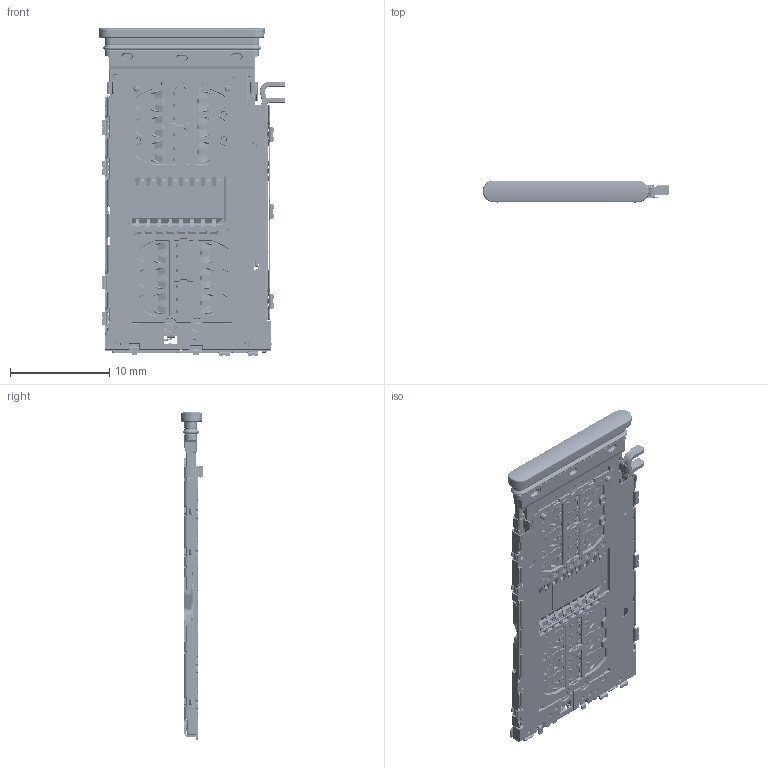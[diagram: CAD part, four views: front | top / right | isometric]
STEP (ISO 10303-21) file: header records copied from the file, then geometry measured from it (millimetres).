
FILE_DESCRIPTION((''),'2;1');
FILE_NAME('1052001BR001_NANO_SIM2_TF_CARD__ASM','2023-07-24T10:06:36',('MACHENIKE'),(''),'CREO PARAMETRIC BY PTC INC, 2020053','CREO PARAMETRIC BY PTC INC, 2020053','');
FILE_SCHEMA(('CONFIG_CONTROL_DESIGN'));
Length unit declared in the file: millimetre
Products named in the file (54): MANIFOLD_SOLID_BREP_45726_1_1_3; MANIFOLD_SOLID_BREP_46089_1_1_3; MANIFOLD_SOLID_BREP_46452_1_1_3; MANIFOLD_SOLID_BREP_48530_1_1_3; MANIFOLD_SOLID_BREP_50851_1_1_3; MANIFOLD_SOLID_BREP_53531_1_1_3; MANIFOLD_SOLID_BREP_54336_1_1_3; MANIFOLD_SOLID_BREP_56718_1_1_3; MANIFOLD_SOLID_BREP_58998_1_1_3; MANIFOLD_SOLID_BREP_61080_1_1_3; MANIFOLD_SOLID_BREP_61759_1_1_3; MANIFOLD_SOLID_BREP_62568_1_1_3; MANIFOLD_SOLID_BREP_63421_1_1_3; MANIFOLD_SOLID_BREP_64274_1_1_3; MANIFOLD_SOLID_BREP_65341_1_1_3; MANIFOLD_SOLID_BREP_66194_1_1_3; MANIFOLD_SOLID_BREP_67003_1_1_3; MANIFOLD_SOLID_BREP_69169_1_1_3; MANIFOLD_SOLID_BREP_71536_1_1_3; MANIFOLD_SOLID_BREP_74132_1_1_3; MANIFOLD_SOLID_BREP_76642_1_1_3; MANIFOLD_SOLID_BREP_78919_1_1_3; MANIFOLD_SOLID_BREP_80999_1_1_3; MANIFOLD_SOLID_BREP_81880_1_1_3; MANIFOLD_SOLID_BREP_82761_1_1_3; MANIFOLD_SOLID_BREP_83990_1_1_3; SIM_130020_C_C_1008_105_ASM_1_2_ASM; SIM_130020_C_S_1008_26__1_1_1_1; SIM_130020_C_T_1008_16__1_1_1_1; SIM_130020_C_SW_F_1008__1_1_1_1; SIM_130020_C_1008_ASM_7_ASM_1_2_ASM; SIM_130020_HSG1_1008_94_1_1_1_1; SIM_130020_HSG2_1008_75_1_1_1_1; MANIFOLD_SOLID_BREP_187983_1__2; MANIFOLD_SOLID_BREP_195514_1__2; MANIFOLD_SOLID_BREP_199264_1__2; SIM_130020_HSG3_1008_15_ASM_1_2_ASM; SIM_130020_HSG4_1008_63_1_1_1_1; SIM_130020_HSG_1008_ASM_ASM_1_2_ASM; SIM_130020_IM_1008_ASM__ASM_1_2_ASM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
Assembly tree (74 placements, depth 8):
  1052001BR001_NANO_SIM2_TF_CARD__ASM
    ASM0006_ASM_1_ASM
      1052001BR001_ASM_1_1_ASM_1_ASM
        SIM_130020_1008_ASM_307_ASM_1_2_ASM
          SIM_130020_IM_1008_ASM__ASM_1_2_ASM
            SIM_130020_C_1008_ASM_7_ASM_1_2_ASM
              SIM_130020_C_C_1008_105_ASM_1_2_ASM
                MANIFOLD_SOLID_BREP_45726_1_1_3
                MANIFOLD_SOLID_BREP_46089_1_1_3
                MANIFOLD_SOLID_BREP_46452_1_1_3
                MANIFOLD_SOLID_BREP_48530_1_1_3
                MANIFOLD_SOLID_BREP_50851_1_1_3
                MANIFOLD_SOLID_BREP_53531_1_1_3
                MANIFOLD_SOLID_BREP_54336_1_1_3
                MANIFOLD_SOLID_BREP_56718_1_1_3
                MANIFOLD_SOLID_BREP_58998_1_1_3
                MANIFOLD_SOLID_BREP_61080_1_1_3
                MANIFOLD_SOLID_BREP_61759_1_1_3
                MANIFOLD_SOLID_BREP_62568_1_1_3
                MANIFOLD_SOLID_BREP_63421_1_1_3
                MANIFOLD_SOLID_BREP_64274_1_1_3
                MANIFOLD_SOLID_BREP_65341_1_1_3
                MANIFOLD_SOLID_BREP_66194_1_1_3
                MANIFOLD_SOLID_BREP_67003_1_1_3
                MANIFOLD_SOLID_BREP_69169_1_1_3
                MANIFOLD_SOLID_BREP_71536_1_1_3
                MANIFOLD_SOLID_BREP_74132_1_1_3
                MANIFOLD_SOLID_BREP_76642_1_1_3
                MANIFOLD_SOLID_BREP_78919_1_1_3
                MANIFOLD_SOLID_BREP_80999_1_1_3
                MANIFOLD_SOLID_BREP_81880_1_1_3
                MANIFOLD_SOLID_BREP_82761_1_1_3
                MANIFOLD_SOLID_BREP_83990_1_1_3
              SIM_130020_C_S_1008_26__1_1_1_1  x12
              SIM_130020_C_T_1008_16__1_1_1_1  x8
              SIM_130020_C_SW_F_1008__1_1_1_1
            SIM_130020_HSG_1008_ASM_ASM_1_2_ASM
              SIM_130020_HSG1_1008_94_1_1_1_1
              SIM_130020_HSG2_1008_75_1_1_1_1
              SIM_130020_HSG3_1008_15_ASM_1_2_ASM
                MANIFOLD_SOLID_BREP_187983_1__2
                MANIFOLD_SOLID_BREP_195514_1__2
                MANIFOLD_SOLID_BREP_199264_1__2
              SIM_130020_HSG4_1008_63_1_1_1_1
          SIM_130020_C_SW_1008_39_1_1_1_1
          SIM_130020_LEVER_1008_3_1_1_1_1  x2
          SIM_130020_COVER_1008_5_1_1_1_1
          SIM_130020_CAM_1008_24__1_1_1_1  x2
          SIM_130020_C_SW_S_1008__1_1_1_1
          1140101WT011_ASM
            1140101WT011-TRAY
            1140101WT011-RING
            NANO-SIM_1_1  x2
            TF-CARD_1_1
Bounding box: 18.77 x 2.29 x 33.07 mm (x, y, z)
Volume: 594.8 mm3; surface area: 3982.2 mm2
Topology: 63 solids, 65 shells, 10883 faces, 28569 edges, 17627 vertices
Faces by surface type: plane 6317, cylinder 3275, cone 726, torus 200, extrusion 170, bspline 135, sphere 60
Entity records: 285105 total; most frequent: CARTESIAN_POINT 59283, ORIENTED_EDGE 47354, DIRECTION 47114, EDGE_CURVE 23690, VECTOR 16238, LINE 16156, AXIS2_PLACEMENT_3D 15438, VERTEX_POINT 14735
